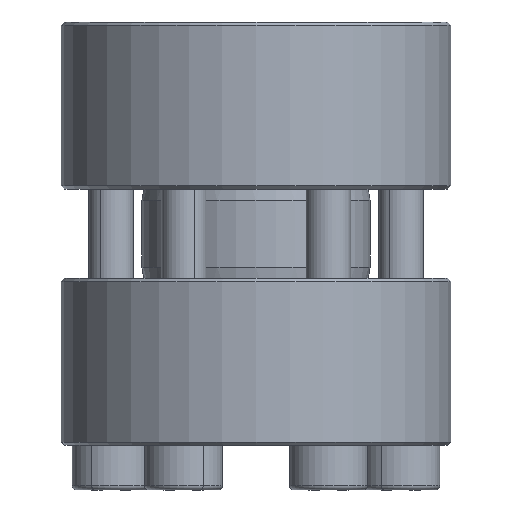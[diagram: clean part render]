
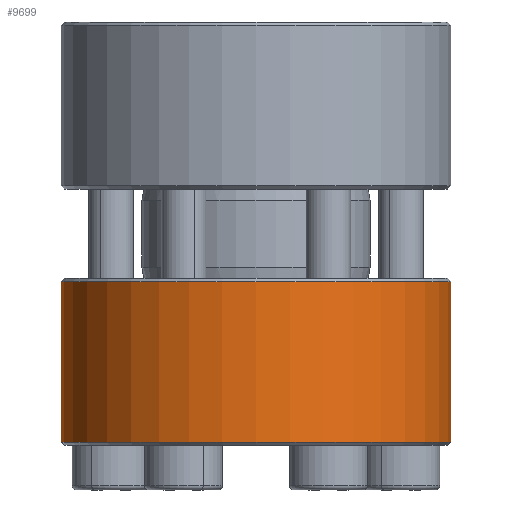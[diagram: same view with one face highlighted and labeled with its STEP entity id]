
A CAD part, front view. The second image highlights one B-rep face of the part: STEP entity #9699.
In plain terms, the highlighted cylindrical face has radius 17.5 mm (diameter 35 mm), a partial arc.
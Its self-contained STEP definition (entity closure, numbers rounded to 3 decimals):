
#150 = DIRECTION ( 'NONE',  ( -1., 0., 0. ) ) ;
#711 = DIRECTION ( 'NONE',  ( 1., 0., 0. ) ) ;
#1043 = FACE_OUTER_BOUND ( 'NONE', #2790, .T. ) ;
#1784 = DIRECTION ( 'NONE',  ( 0., 0., -1. ) ) ;
#2109 = CIRCLE ( 'NONE', #9747, 17.5 ) ;
#2239 = DIRECTION ( 'NONE',  ( 0., 0., -1. ) ) ;
#2295 = CARTESIAN_POINT ( 'NONE',  ( 0., 0., 0.3 ) ) ;
#2346 = EDGE_CURVE ( 'NONE', #4959, #4170, #8884, .T. ) ;
#2790 = EDGE_LOOP ( 'NONE', ( #5710, #9475, #6948, #9608 ) ) ;
#2849 = VECTOR ( 'NONE', #1784, 1000. ) ;
#3049 = DIRECTION ( 'NONE',  ( 1., 0., 0. ) ) ;
#4063 = AXIS2_PLACEMENT_3D ( 'NONE', #9722, #5215, #711 ) ;
#4087 = CYLINDRICAL_SURFACE ( 'NONE', #5665, 17.5 ) ;
#4170 = VERTEX_POINT ( 'NONE', #9750 ) ;
#4585 = CARTESIAN_POINT ( 'NONE',  ( -17.5, 0., 0.3 ) ) ;
#4657 = CARTESIAN_POINT ( 'NONE',  ( 0., 0., 15. ) ) ;
#4959 = VERTEX_POINT ( 'NONE', #8711 ) ;
#5215 = DIRECTION ( 'NONE',  ( 0., 0., -1. ) ) ;
#5413 = EDGE_CURVE ( 'NONE', #4959, #8479, #9517, .T. ) ;
#5502 = VECTOR ( 'NONE', #7086, 1000. ) ;
#5524 = LINE ( 'NONE', #7036, #2849 ) ;
#5665 = AXIS2_PLACEMENT_3D ( 'NONE', #4657, #2239, #150 ) ;
#5684 = EDGE_CURVE ( 'NONE', #8445, #8479, #2109, .T. ) ;
#5710 = ORIENTED_EDGE ( 'NONE', *, *, #5413, .F. ) ;
#6340 = CARTESIAN_POINT ( 'NONE',  ( 17.5, 0., 15. ) ) ;
#6948 = ORIENTED_EDGE ( 'NONE', *, *, #8755, .T. ) ;
#7036 = CARTESIAN_POINT ( 'NONE',  ( -17.5, 0., 15. ) ) ;
#7086 = DIRECTION ( 'NONE',  ( 0., 0., -1. ) ) ;
#7528 = DIRECTION ( 'NONE',  ( 0., 0., 1. ) ) ;
#7637 = CARTESIAN_POINT ( 'NONE',  ( 17.5, 0., 0.3 ) ) ;
#8445 = VERTEX_POINT ( 'NONE', #4585 ) ;
#8479 = VERTEX_POINT ( 'NONE', #7637 ) ;
#8711 = CARTESIAN_POINT ( 'NONE',  ( 17.5, 0., 14.7 ) ) ;
#8755 = EDGE_CURVE ( 'NONE', #4170, #8445, #5524, .T. ) ;
#8884 = CIRCLE ( 'NONE', #4063, 17.5 ) ;
#9475 = ORIENTED_EDGE ( 'NONE', *, *, #2346, .T. ) ;
#9517 = LINE ( 'NONE', #6340, #5502 ) ;
#9608 = ORIENTED_EDGE ( 'NONE', *, *, #5684, .T. ) ;
#9699 = ADVANCED_FACE ( 'NONE', ( #1043 ), #4087, .T. ) ;
#9722 = CARTESIAN_POINT ( 'NONE',  ( 0., 0., 14.7 ) ) ;
#9747 = AXIS2_PLACEMENT_3D ( 'NONE', #2295, #7528, #3049 ) ;
#9750 = CARTESIAN_POINT ( 'NONE',  ( -17.5, 0., 14.7 ) ) ;
